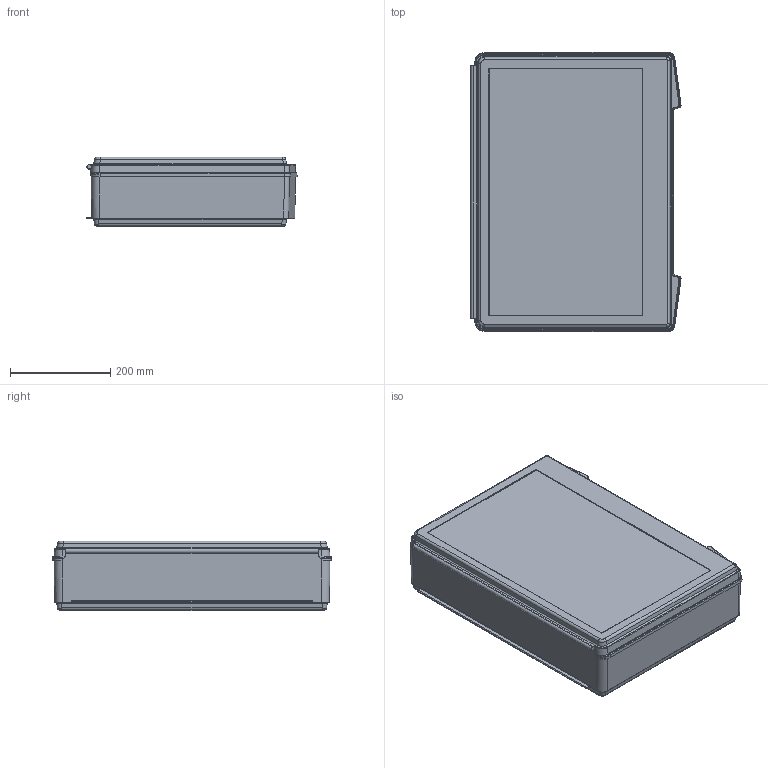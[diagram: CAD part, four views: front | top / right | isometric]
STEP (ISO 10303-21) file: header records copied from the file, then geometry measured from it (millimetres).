
FILE_DESCRIPTION(/* description */ (''),/* implementation_level */ '2;1');
FILE_NAME(/* name */ 'T126_Case_OT-UT.stp',/* time_stamp */ '2014-10-06T09:32:54+02:00',/* author */ (''),/* organization */ (''),/* preprocessor_version */ 'ST-DEVELOPER v15',/* originating_system */ 'SIEMENS PLM Software NX 8.5',/* authorisation */ '');
FILE_SCHEMA (('AUTOMOTIVE_DESIGN { 1 0 10303 214 3 1 1 1 }'));
Length unit declared in the file: millimetre
Products named in the file (1): pk1A9099730gtp
Bounding box: 419.34 x 557.04 x 139.3 mm (x, y, z)
Volume: 2417838.8 mm3; surface area: 1389378.7 mm2
Topology: 2 solids, 2 shells, 959 faces, 2341 edges, 1376 vertices
Faces by surface type: cylinder 379, bspline 304, plane 246, torus 20, cone 10
Entity records: 31673 total; most frequent: CARTESIAN_POINT 10983, ORIENTED_EDGE 4658, DIRECTION 4025, EDGE_CURVE 2329, AXIS2_PLACEMENT_3D 1500, VERTEX_POINT 1384, LINE 1025, VECTOR 1025
